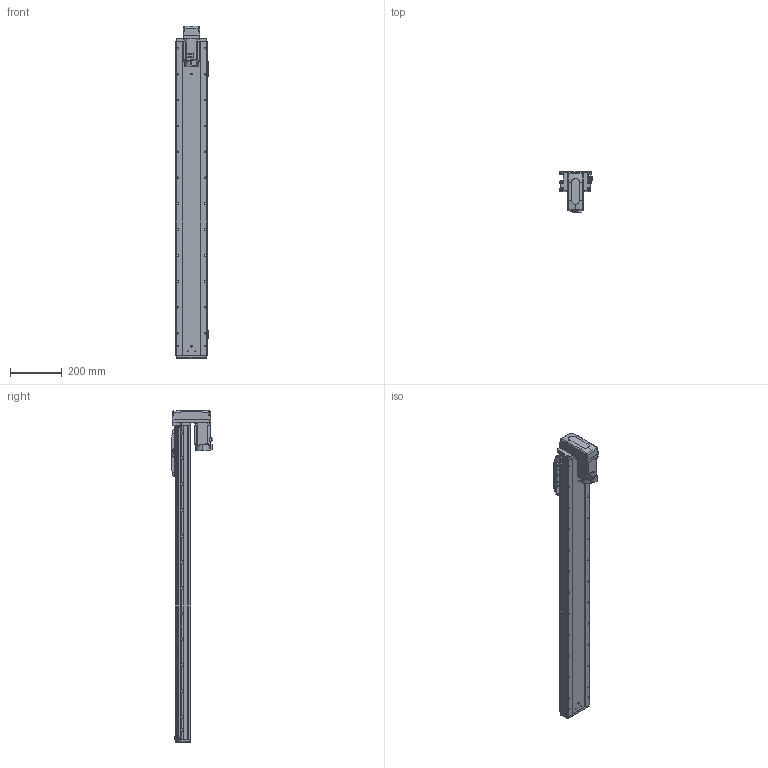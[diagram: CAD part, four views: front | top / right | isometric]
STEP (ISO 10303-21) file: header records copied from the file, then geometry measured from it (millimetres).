
FILE_DESCRIPTION (( 'STEP AP203' ), '1' );
FILE_NAME ('GTH12-1000-BM-M40-C4.step', '2022-09-29T01:59:52', ( '微软用户' ), ( '微软中国' ), 'SwSTEP 2.0', 'SolidWorks 2020', '' );
FILE_SCHEMA (( 'CONFIG_CONTROL_DESIGN' ));
Length unit declared in the file: millimetre
Products named in the file (18): GBT 70.1-M3℅6; GBT96.1-2002 3×0.8; GBT 70.1-M5×16; BTH-M3X5X6; GTH120-001_1000; GBT 70.3-M3℅8; hg-kn43j_-s100_; GTH120-003; GTH80-022; CTHA86-033_M40B; GTH120-006; GTH80-028; GTH120-027-1_GTH120-027-2; GTH120-004; GTH50-023; GTH12-1000-BM-M40-C4; GTH120-013; GTH50-024
Assembly tree (59 placements, depth 2):
  GTH12-1000-BM-M40-C4
    GTH120-001_1000
    GTH120-003
    GTH120-006
    GTH120-004
    GTH120-013
    GBT 70.1-M3℅6  x14
    GBT 70.1-M5×16  x10
    GBT 70.3-M3℅8  x4
    GTH80-022
    GTH80-028  x2
    GTH50-023  x3
    GTH50-024  x3
    GBT96.1-2002 3×0.8  x6
    BTH-M3X5X6  x8
    hg-kn43j_-s100_
    CTHA86-033_M40B
    GTH120-027-1_GTH120-027-2
Bounding box: 125.7 x 159.8 x 1282 mm (x, y, z)
Volume: 9142166.6 mm3; surface area: 778874.7 mm2
Topology: 61 solids, 61 shells, 2543 faces, 5960 edges, 3659 vertices
Faces by surface type: plane 1294, cylinder 753, cone 308, torus 174, sphere 8, bspline 6
Entity records: 48726 total; most frequent: CARTESIAN_POINT 8292, DIRECTION 8100, ORIENTED_EDGE 7530, EDGE_CURVE 3765, AXIS2_PLACEMENT_3D 2832, VECTOR 2436, LINE 2436, VERTEX_POINT 2380
